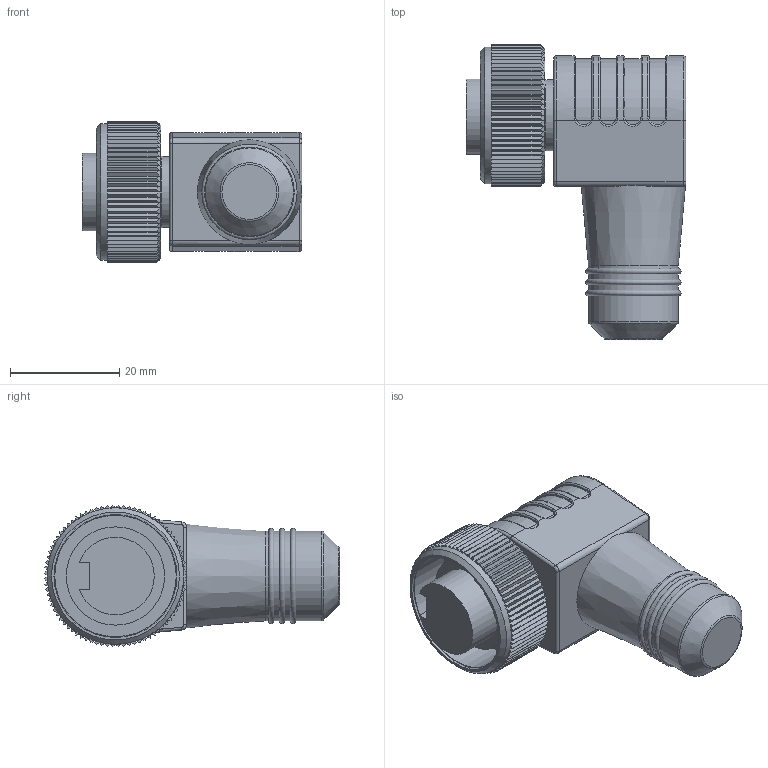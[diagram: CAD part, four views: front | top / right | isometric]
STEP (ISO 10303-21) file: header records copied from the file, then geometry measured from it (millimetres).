
FILE_DESCRIPTION((''),'2;1');
FILE_NAME('C:\TurckZip\MFGD0068.stp','2007-08-28T11:43:21',('IKOROL'),(''),'Autodesk Inventor 11','Autodesk Inventor 11','');
FILE_SCHEMA(('AUTOMOTIVE_DESIGN { 1 0 10303 214 1 1 1 1 }'));
Length unit declared in the file: millimetre
Products named in the file (1): Part2
Bounding box: 40.2 x 53.99 x 25.98 mm (x, y, z)
Volume: 21832.1 mm3; surface area: 8001.1 mm2
Topology: 1 solids, 2 shells, 456 faces, 1113 edges, 669 vertices
Faces by surface type: plane 277, cylinder 129, torus 23, bspline 20, cone 7
Full cylindrical faces by diameter (mm): 13 x2, 16 x1, 16.437 x4, 18 x1, 22.225 x1, 22.5 x1, 25 x1
Entity records: 13846 total; most frequent: CARTESIAN_POINT 3621, ORIENTED_EDGE 2176, DIRECTION 2145, EDGE_CURVE 1088, AXIS2_PLACEMENT_3D 835, VERTEX_POINT 667, EDGE_LOOP 487, VECTOR 475
